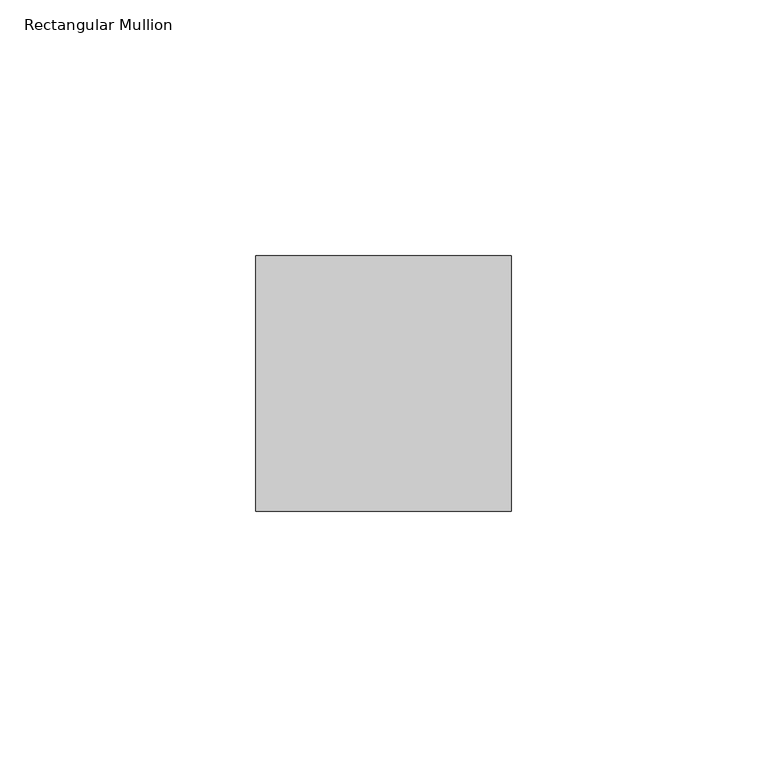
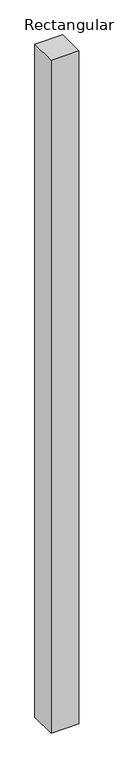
"""IFC4 building model written with IfcOpenShell, lengths in millimetres: member geometry, Rectangular Mullion : Mullion_Curtain Wall_Generic Showcase_50x50mm."""

from ifc_helpers import new_model, si_unit, frame, origin, place, context, project, spatial, polyline, outline, extrude, source, transform, mapped, element, save


def rectangular_mullion_d3216087(model_context):
    return source(origin(), model_context, "Body", "SweptSolid", [
        extrude(outline(polyline([(0.0, 50.0), (0.0, 0.0), (-50.0, 0.0), (-50.0, 50.0), (0.0, 50.0)])), frame((0.0, 0.0, -1275.0), z_axis=(0.0, 0.0, 1.0), x_axis=(1.0, 0.0, 0.0)), (0.0, 0.0, 1.0), 1275.0),
    ])


if __name__ == "__main__":
    model = new_model("IFC4")
    model_context = context("Model", 3, world=origin())
    ifc_project = project(units=[si_unit("LENGTHUNIT", "METRE", prefix="MILLI")], contexts=[model_context])
    site = spatial("IfcSite", under=ifc_project)
    building = spatial("IfcBuilding", under=site)
    placement = place(None, origin())
    rectangular_mullion_shape = rectangular_mullion_d3216087(model_context)
    element("IfcMember", 1, ObjectType="Rectangular Mullion : Mullion_Curtain Wall_Generic Showcase_50x50mm", at=placement, inside=building, context=model_context, shape_type="MappedRepresentation", body=[
        mapped(rectangular_mullion_shape, transform((0.0, 0.0, 0.0), x_axis=(1.0, 0.0, 0.0), y_axis=(0.0, 1.0, 0.0), z_axis=(0.0, 0.0, 1.0))),
    ])
    save(model, "model.ifc")
